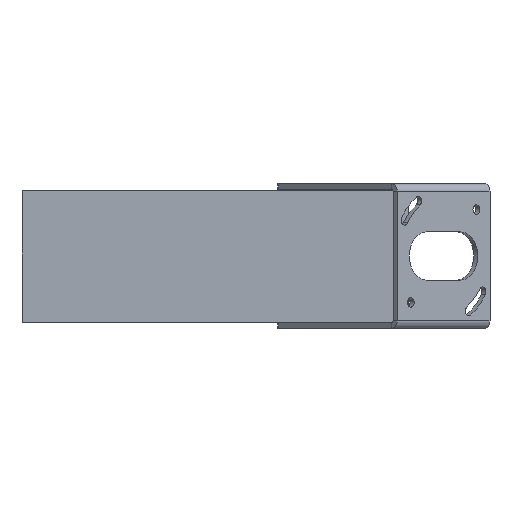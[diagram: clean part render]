
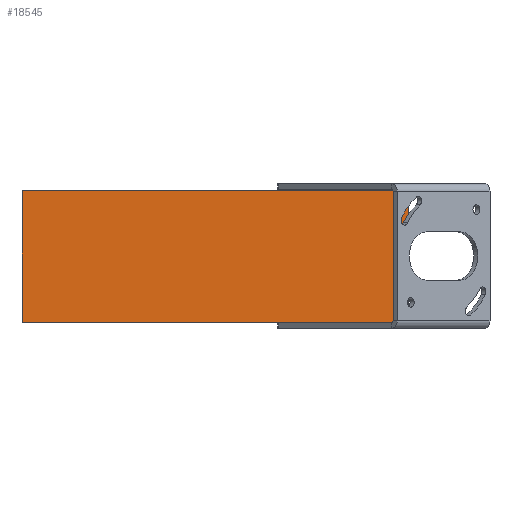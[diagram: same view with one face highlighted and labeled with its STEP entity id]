
A CAD part, left-side view. The second image highlights one B-rep face of the part: STEP entity #18545.
In plain terms, the highlighted planar face has unit normal (-1, 0, 0).
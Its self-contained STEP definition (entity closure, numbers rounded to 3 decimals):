
#3475=DIRECTION('',(0.,0.,1.));
#3476=VECTOR('',#3475,68.);
#3477=CARTESIAN_POINT('',(-33.331,123.,-34.262));
#3478=LINE('',#3477,#3476);
#3651=DIRECTION('',(0.,-1.,0.));
#3652=VECTOR('',#3651,200.);
#3653=CARTESIAN_POINT('',(-33.331,123.,-34.262));
#3654=LINE('',#3653,#3652);
#3679=DIRECTION('',(0.,-1.,0.));
#3680=VECTOR('',#3679,200.);
#3681=CARTESIAN_POINT('',(-33.331,123.,33.738));
#3682=LINE('',#3681,#3680);
#4208=DIRECTION('',(0.,0.,-1.));
#4209=VECTOR('',#4208,68.);
#4210=CARTESIAN_POINT('',(-33.331,-77.,33.738));
#4211=LINE('',#4210,#4209);
#16501=CARTESIAN_POINT('',(-33.331,123.,33.738));
#16503=VERTEX_POINT('',#16501);
#16507=CARTESIAN_POINT('',(-33.331,123.,-34.262));
#16508=VERTEX_POINT('',#16507);
#16513=CARTESIAN_POINT('',(-33.331,-77.,33.738));
#16514=VERTEX_POINT('',#16513);
#16515=CARTESIAN_POINT('',(-33.331,-77.,-34.262));
#16516=VERTEX_POINT('',#16515);
#18533=CARTESIAN_POINT('',(-33.331,0.,-34.262));
#18534=DIRECTION('',(-1.,0.,0.));
#18535=DIRECTION('',(0.,0.,1.));
#18536=AXIS2_PLACEMENT_3D('',#18533,#18534,#18535);
#18537=PLANE('',#18536);
#18538=ORIENTED_EDGE('',*,*,#18447,.T.);
#18540=ORIENTED_EDGE('',*,*,#18539,.T.);
#18541=ORIENTED_EDGE('',*,*,#18512,.F.);
#18542=ORIENTED_EDGE('',*,*,#18429,.T.);
#18543=EDGE_LOOP('',(#18538,#18540,#18541,#18542));
#18544=FACE_OUTER_BOUND('',#18543,.F.);
#18545=ADVANCED_FACE('',(#18544),#18537,.T.);
#18429=EDGE_CURVE('',#16508,#16503,#3478,.T.);
#18447=EDGE_CURVE('',#16503,#16514,#3682,.T.);
#18512=EDGE_CURVE('',#16508,#16516,#3654,.T.);
#18539=EDGE_CURVE('',#16514,#16516,#4211,.T.);
